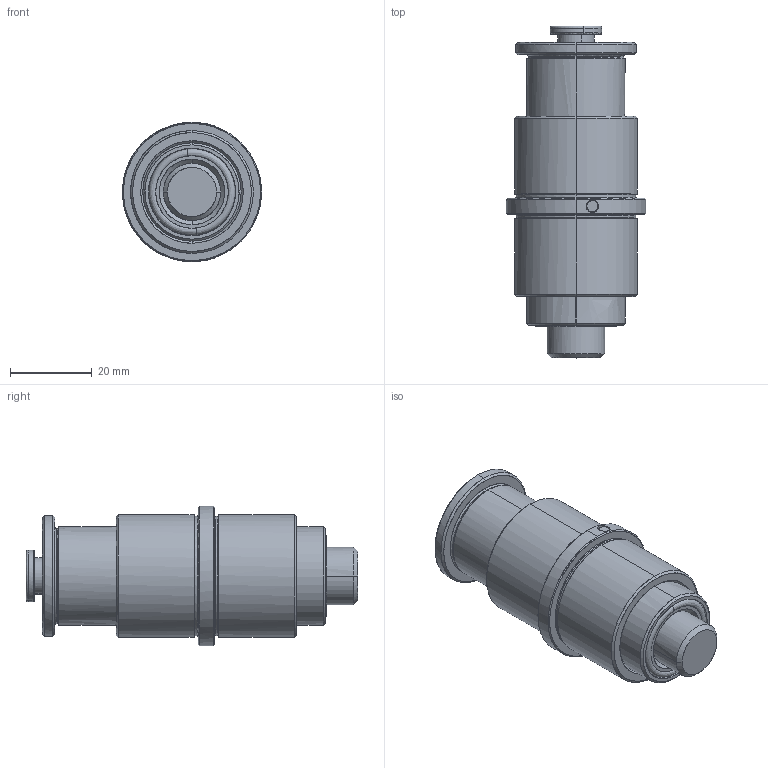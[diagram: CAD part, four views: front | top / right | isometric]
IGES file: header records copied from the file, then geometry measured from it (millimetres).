
Start section: START RECORD GO HERE.
Global section: file name: ae052430.igs; native system: DASSAULT SYSTEMES CATIA V5 R20 - www.3ds.com; preprocessor: CATIA Version 5 Release 20 ; author: Utente; organization: NB04-ASUS; date: 20201103.203150; units: millimetre
Bounding box: 34 x 81 x 34 mm (x, y, z)
Surface area: 25536.7 mm2 (no closed solid volume)
Topology: 0 solids, 0 shells, 755 faces, 3728 edges, 3684 vertices
Faces by surface type: revolution 415, plane 188, bspline 152
